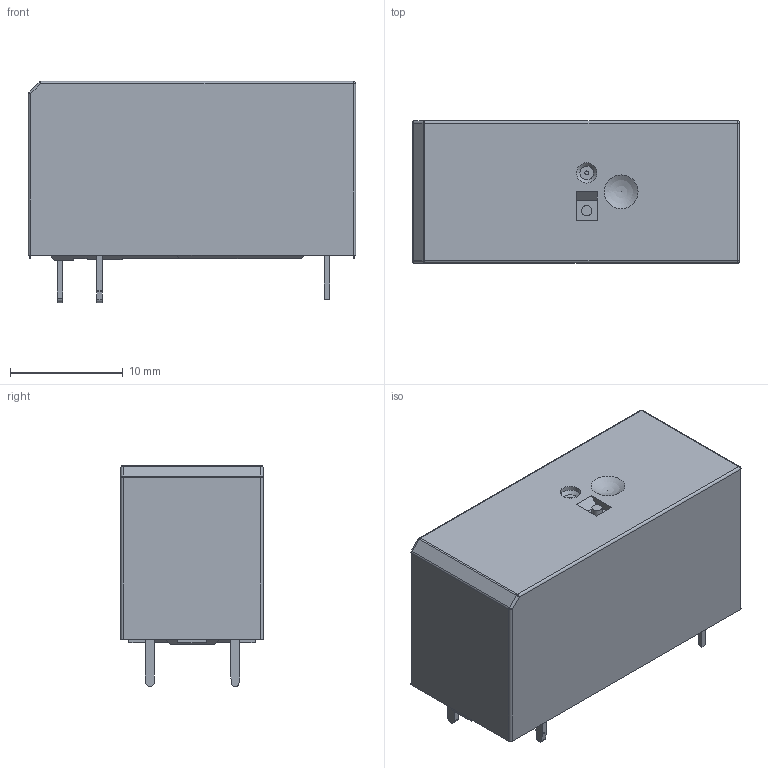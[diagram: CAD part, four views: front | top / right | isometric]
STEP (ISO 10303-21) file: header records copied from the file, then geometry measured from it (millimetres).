
FILE_DESCRIPTION(/* description */ (''),/* implementation_level */ '2;1');
FILE_NAME(/* name */ 'HF115F1H1.stp',/* time_stamp */ '2018-01-08T20:29:55+08:00',/* author */ (''),/* organization */ (''),/* preprocessor_version */ 'ST-DEVELOPER v15',/* originating_system */ 'SIEMENS PLM Software NX 8.5',/* authorisation */ '');
FILE_SCHEMA (('CONFIG_CONTROL_DESIGN'));
Length unit declared in the file: millimetre
Products named in the file (1): _model9
Bounding box: 29 x 12.6 x 19.6 mm (x, y, z)
Volume: 5462.1 mm3; surface area: 2754.3 mm2
Topology: 1 solids, 6 shells, 207 faces, 532 edges, 333 vertices
Faces by surface type: plane 135, cylinder 49, sphere 10, bspline 6, torus 5, cone 2
Full cylindrical faces by diameter (mm): 0.35 x1, 0.9 x1, 1.8 x1, 2 x1
Entity records: 6212 total; most frequent: CARTESIAN_POINT 1144, DIRECTION 1030, ORIENTED_EDGE 1012, EDGE_CURVE 506, LINE 386, VECTOR 386, VERTEX_POINT 328, AXIS2_PLACEMENT_3D 322
